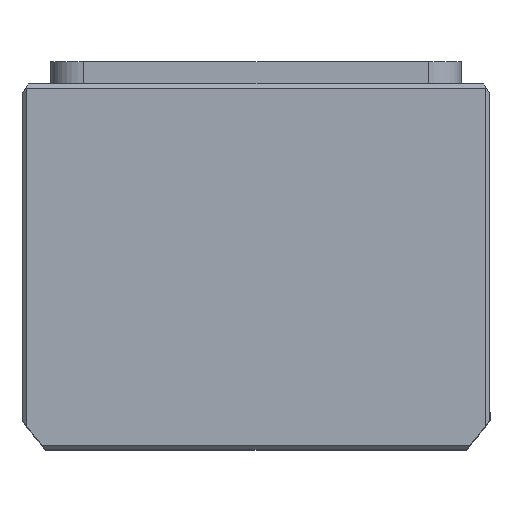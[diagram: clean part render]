
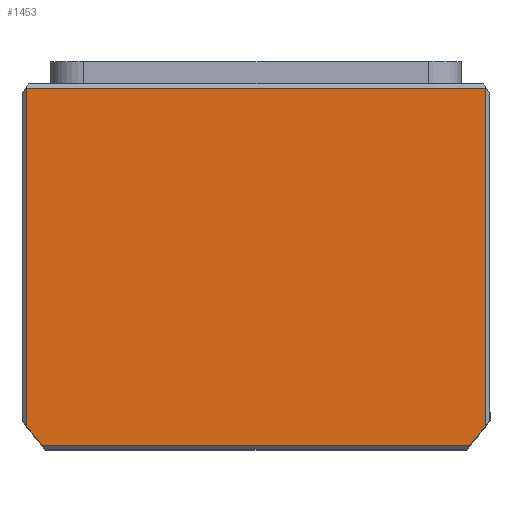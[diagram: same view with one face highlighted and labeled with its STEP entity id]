
A CAD part, top view. The second image highlights one B-rep face of the part: STEP entity #1453.
In plain terms, the highlighted planar face has unit normal (0, 0, 1) as drawn and (0, 0, -1) by its records, which use the part's own axes.
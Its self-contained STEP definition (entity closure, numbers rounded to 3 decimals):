
#371 = ORIENTED_EDGE ( 'NONE', *, *, #5838, .F. ) ;
#758 = CARTESIAN_POINT ( 'NONE',  ( 0., 0., 0. ) ) ;
#830 = CARTESIAN_POINT ( 'NONE',  ( -52.098, 43.5, 0. ) ) ;
#863 = DIRECTION ( 'NONE',  ( -1., 0., 0. ) ) ;
#1346 = ORIENTED_EDGE ( 'NONE', *, *, #4454, .T. ) ;
#1453 = ADVANCED_FACE ( 'NONE', ( #13644 ), #16969, .F. ) ;
#2251 = DIRECTION ( 'NONE',  ( 1., 0., 0. ) ) ;
#2287 = CARTESIAN_POINT ( 'NONE',  ( 56., 0., 0. ) ) ;
#3759 = DIRECTION ( 'NONE',  ( 0., -1., 0. ) ) ;
#4454 = EDGE_CURVE ( 'NONE', #18552, #13862, #8085, .T. ) ;
#5328 = CARTESIAN_POINT ( 'NONE',  ( 0., -43.5, 0. ) ) ;
#5387 = DIRECTION ( 'NONE',  ( 0., 0., 1. ) ) ;
#5725 = CARTESIAN_POINT ( 'NONE',  ( 0., -2.5, 0. ) ) ;
#5789 = VERTEX_POINT ( 'NONE', #7093 ) ;
#5838 = EDGE_CURVE ( 'NONE', #13172, #13862, #11002, .T. ) ;
#6249 = CARTESIAN_POINT ( 'NONE',  ( 52.098, 43.5, 0. ) ) ;
#7066 = CARTESIAN_POINT ( 'NONE',  ( -56., 38.661, 0. ) ) ;
#7093 = CARTESIAN_POINT ( 'NONE',  ( -56., -43.5, 0. ) ) ;
#7223 = DIRECTION ( 'NONE',  ( 1., 0., 0. ) ) ;
#8043 = CARTESIAN_POINT ( 'NONE',  ( 56., -43.5, 0. ) ) ;
#8085 = LINE ( 'NONE', #16300, #8545 ) ;
#8098 = EDGE_CURVE ( 'NONE', #12908, #5789, #8886, .T. ) ;
#8434 = VECTOR ( 'NONE', #863, 1000. ) ;
#8545 = VECTOR ( 'NONE', #17718, 1000. ) ;
#8797 = EDGE_CURVE ( 'NONE', #5789, #14529, #9591, .T. ) ;
#8864 = CARTESIAN_POINT ( 'NONE',  ( -56., 0., 0. ) ) ;
#8886 = LINE ( 'NONE', #5328, #8434 ) ;
#9344 = CIRCLE ( 'NONE', #15981, 69.5 ) ;
#9591 = LINE ( 'NONE', #8864, #10039 ) ;
#10039 = VECTOR ( 'NONE', #19170, 1000. ) ;
#10872 = ORIENTED_EDGE ( 'NONE', *, *, #17239, .T. ) ;
#11002 = CIRCLE ( 'NONE', #15657, 69.5 ) ;
#11094 = DIRECTION ( 'NONE',  ( 0., 0., 1. ) ) ;
#11523 = ORIENTED_EDGE ( 'NONE', *, *, #8797, .T. ) ;
#12109 = AXIS2_PLACEMENT_3D ( 'NONE', #758, #11094, #2251 ) ;
#12908 = VERTEX_POINT ( 'NONE', #8043 ) ;
#12910 = ORIENTED_EDGE ( 'NONE', *, *, #8098, .T. ) ;
#13084 = EDGE_CURVE ( 'NONE', #18552, #14529, #9344, .T. ) ;
#13172 = VERTEX_POINT ( 'NONE', #14340 ) ;
#13366 = ORIENTED_EDGE ( 'NONE', *, *, #13084, .F. ) ;
#13644 = FACE_OUTER_BOUND ( 'NONE', #14749, .T. ) ;
#13684 = LINE ( 'NONE', #2287, #17161 ) ;
#13862 = VERTEX_POINT ( 'NONE', #6249 ) ;
#14223 = CARTESIAN_POINT ( 'NONE',  ( 0., -2.5, 0. ) ) ;
#14340 = CARTESIAN_POINT ( 'NONE',  ( 56., 38.661, 0. ) ) ;
#14529 = VERTEX_POINT ( 'NONE', #7066 ) ;
#14749 = EDGE_LOOP ( 'NONE', ( #371, #10872, #12910, #11523, #13366, #1346 ) ) ;
#15657 = AXIS2_PLACEMENT_3D ( 'NONE', #5725, #16053, #7223 ) ;
#15693 = DIRECTION ( 'NONE',  ( 1., 0., 0. ) ) ;
#15981 = AXIS2_PLACEMENT_3D ( 'NONE', #14223, #5387, #15693 ) ;
#16053 = DIRECTION ( 'NONE',  ( 0., 0., 1. ) ) ;
#16300 = CARTESIAN_POINT ( 'NONE',  ( 0., 43.5, 0. ) ) ;
#16969 = PLANE ( 'NONE',  #12109 ) ;
#17161 = VECTOR ( 'NONE', #3759, 1000. ) ;
#17239 = EDGE_CURVE ( 'NONE', #13172, #12908, #13684, .T. ) ;
#17718 = DIRECTION ( 'NONE',  ( 1., 0., 0. ) ) ;
#18552 = VERTEX_POINT ( 'NONE', #830 ) ;
#19170 = DIRECTION ( 'NONE',  ( 0., 1., 0. ) ) ;
